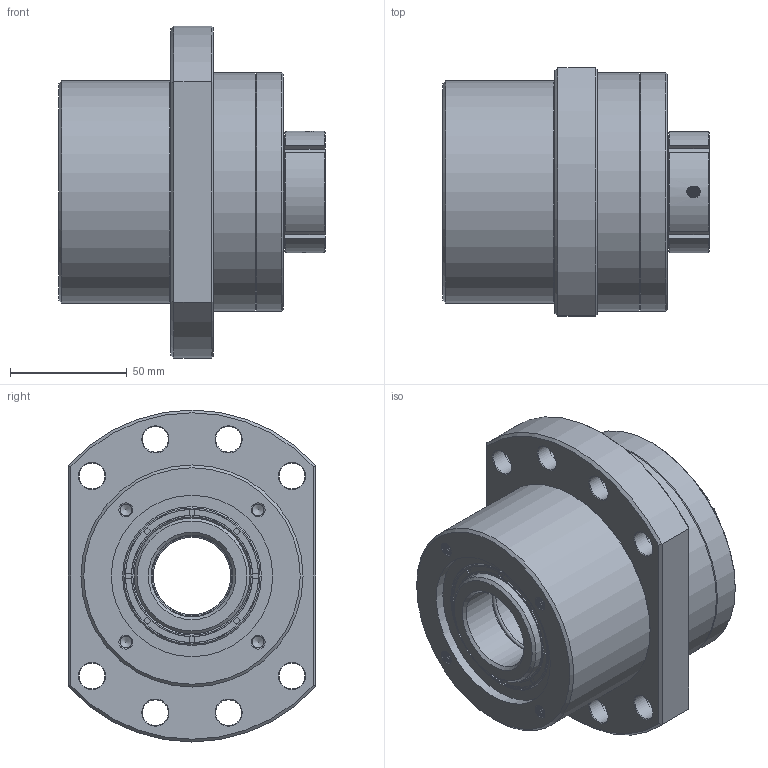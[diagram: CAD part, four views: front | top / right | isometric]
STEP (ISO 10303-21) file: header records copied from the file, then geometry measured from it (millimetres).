
FILE_DESCRIPTION(('STEP AP214'),'1');
FILE_NAME('WBK35DFF (2).stp','2016-10-05T11:43:22',(' '),(' '),'Spatial InterOp 3D',' ',' ');
FILE_SCHEMA(('automotive_design'));
Length unit declared in the file: millimetre
Products named in the file (3): Assembly25; WBK35DFF; WBK35DFF_1
Assembly tree (2 placements, depth 2):
  Assembly25
    WBK35DFF
    WBK35DFF_1
Bounding box: 114 x 106 x 142 mm (x, y, z)
Volume: 638985.5 mm3; surface area: 142867.5 mm2
Topology: 2 solids, 33 shells, 1396 faces, 3776 edges, 2318 vertices
Faces by surface type: cone 565, plane 313, torus 216, sphere 176, cylinder 126
Full cylindrical faces by diameter (mm): 4.2 x2, 5 x8, 6.6 x8, 8 x8, 9 x8, 11 x8, 13 x8, 14 x8, 17.5 x8, 35 x6, 36.2 x1, 44 x1, 49.4 x8, 51.8 x4, 57 x12, 59.4 x3, 63.2 x3, 69 x2, 70.8 x1, 72 x6, 93.8 x1, 95 x1, 102 x2
Entity records: 68654 total; most frequent: CARTESIAN_POINT 16042, DIRECTION 5580, ORIENTED_EDGE 5412, STYLED_ITEM 4014, PRESENTATION_STYLE_ASSIGNMENT 4014, COLOUR_RGB 4014, EDGE_CURVE 2706, CURVE_STYLE 2706
